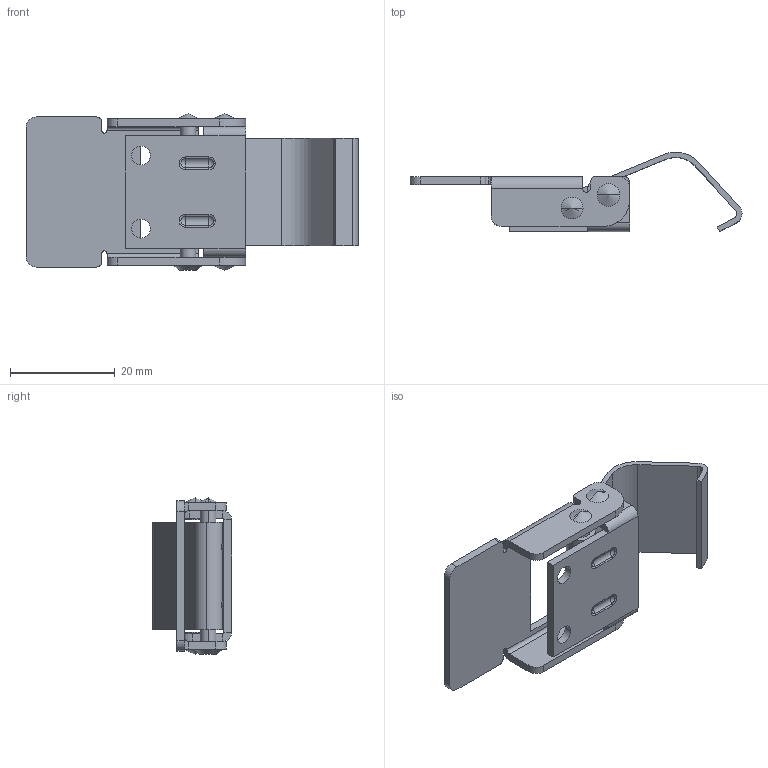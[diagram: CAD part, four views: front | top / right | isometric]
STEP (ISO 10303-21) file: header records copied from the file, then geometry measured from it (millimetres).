
FILE_DESCRIPTION(('STEP AP214'),'1');
FILE_NAME('16-7-3947.stp','2017-08-10T14:50:42',('TraceParts'),('TraceParts S.A.'),'Spatial InterOp 3D',' ',' ');
FILE_SCHEMA(('automotive_design'));
Length unit declared in the file: millimetre
Products named in the file (3): 16-7-3947_1; 16-7-3947_2; 16-7-3947_3
Bounding box: 63.52 x 15.18 x 30 mm (x, y, z)
Volume: 3957 mm3; surface area: 6742.8 mm2
Topology: 3 solids, 3 shells, 152 faces, 389 edges, 247 vertices
Faces by surface type: cylinder 65, plane 63, cone 8, torus 8, sphere 8
Entity records: 5910 total; most frequent: DIRECTION 869, CARTESIAN_POINT 785, ORIENTED_EDGE 766, EDGE_CURVE 383, AXIS2_PLACEMENT_3D 331, VERTEX_POINT 247, LINE 207, VECTOR 207
